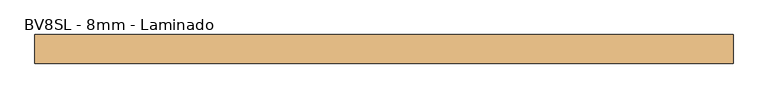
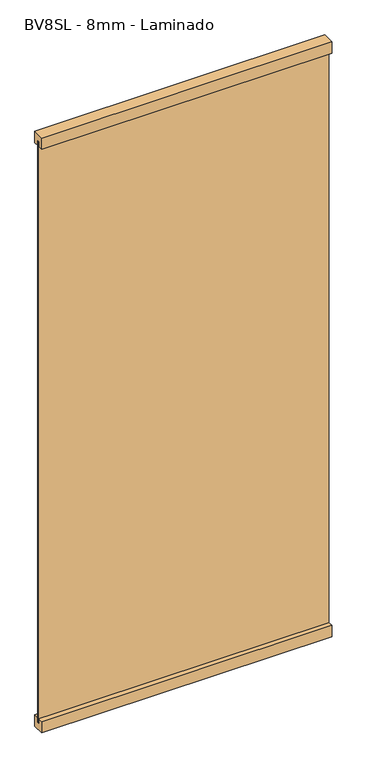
"""IFC4 building model written with IfcOpenShell, lengths in millimetres: door geometry, Mobiliário_Mobiliário de Escritório_Painel Vidro Simples - BVST e BVSL (Complementar)_Marelli : BV8SL - 8mm - Laminado."""

from ifc_helpers import new_model, si_unit, frame, origin, place, context, project, spatial, polyline, outline, extrude, source, transform, mapped, element, save


def bv8sl_8mm_laminado_66e587da(model_context):
    return source(origin(), model_context, "Body", "SweptSolid", [
        extrude(outline(polyline([(25.0, 0.0), (-24.0, 0.0), (-24.0, 50.0), (-4.0, 50.0), (-4.0, 30.0), (4.0, 30.0), (4.0, 50.0), (25.0, 50.0), (25.0, 0.0)])), frame((-600.0, 0.0, 0.0), z_axis=(1.0, 0.0, 0.0), x_axis=(0.0, 1.0, 0.0)), (0.0, 0.0, 1.0), 1200.0),
        extrude(outline(polyline([(600.0, 4.0), (600.0, -4.0), (-600.0, -4.0), (-600.0, 4.0), (600.0, 4.0)])), frame((0.0, 0.0, 30.0), z_axis=(0.0, 0.0, 1.0), x_axis=(1.0, 0.0, 0.0)), (0.0, 0.0, 1.0), 2540.0),
        extrude(outline(polyline([(25.0, 2600.0), (25.0, 2550.0), (5.0, 2550.0), (5.0, 2570.0), (-5.0, 2570.0), (-5.0, 2550.0), (-25.0, 2550.0), (-25.0, 2600.0), (25.0, 2600.0)])), frame((-600.0, 0.0, 0.0), z_axis=(1.0, 0.0, 0.0), x_axis=(0.0, 1.0, 0.0)), (0.0, 0.0, 1.0), 1200.0),
    ])


if __name__ == "__main__":
    model = new_model("IFC4")
    model_context = context("Model", 3, world=origin())
    ifc_project = project(units=[si_unit("LENGTHUNIT", "METRE", prefix="MILLI")], contexts=[model_context])
    site = spatial("IfcSite", under=ifc_project)
    building = spatial("IfcBuilding", under=site)
    placement = place(None, origin())
    bv8sl_8mm_laminado_shape = bv8sl_8mm_laminado_66e587da(model_context)
    element("IfcDoor", 1, ObjectType="Mobiliário_Mobiliário de Escritório_Painel Vidro Simples - BVST e BVSL (Complementar)_Marelli : BV8SL - 8mm - Laminado", at=placement, inside=building, context=model_context, shape_type="MappedRepresentation", body=[
        mapped(bv8sl_8mm_laminado_shape, transform((0.0, 0.0, 0.0), x_axis=(1.0, 0.0, 0.0), y_axis=(0.0, 1.0, 0.0), z_axis=(0.0, 0.0, 1.0))),
    ])
    save(model, "model.ifc")
